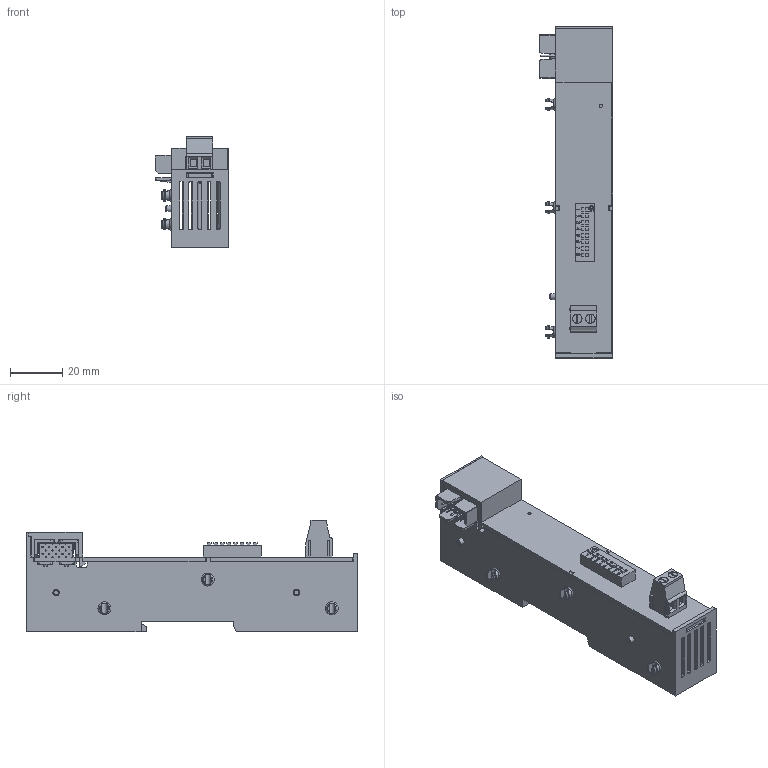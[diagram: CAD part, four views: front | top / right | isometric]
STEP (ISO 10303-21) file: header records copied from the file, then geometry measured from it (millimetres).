
FILE_DESCRIPTION (( 'STEP AP214' ), '1' );
FILE_NAME ('CFTC-1L_ASM.STEP', '2024-09-06T10:33:48', ( '' ), ( '' ), 'SwSTEP 2.0', 'SolidWorks 2020', '' );
FILE_SCHEMA (( 'AUTOMOTIVE_DESIGN' ));
Length unit declared in the file: millimetre
Products named in the file (1): CFTC-1L_ASM
Bounding box: 28 x 127 x 42.7 mm (x, y, z)
Volume: 27152.9 mm3; surface area: 31204.4 mm2
Topology: 1 solids, 2 shells, 972 faces, 2643 edges, 1704 vertices
Faces by surface type: plane 669, cylinder 148, bspline 62, cone 58, torus 35
Full cylindrical faces by diameter (mm): 0.5 x40, 1.2 x1, 1.6 x2, 3.6 x2, 4.6 x3, 6 x1, 9 x1
Entity records: 33399 total; most frequent: CARTESIAN_POINT 9930, ORIENTED_EDGE 5038, DIRECTION 4361, EDGE_CURVE 2519, VECTOR 1887, LINE 1887, VERTEX_POINT 1669, AXIS2_PLACEMENT_3D 1237
